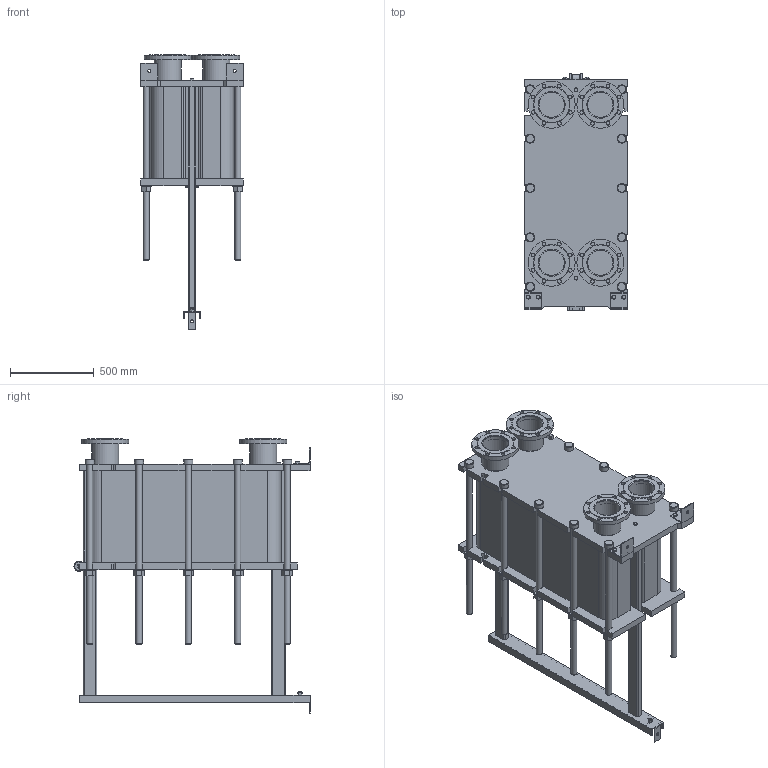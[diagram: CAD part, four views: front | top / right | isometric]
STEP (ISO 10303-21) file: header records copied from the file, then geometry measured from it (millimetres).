
FILE_DESCRIPTION(/* description */ (''),/* implementation_level */ '2;1');
FILE_NAME(/* name */ 'C:\Users\zhuro\Desktop\ENCO\TO\ЭН-041\ЭН-0,5-041-159-1.stp',/* time_stamp */ '2022-06-06T11:03:14+03:00',/* author */ ('zhuro'),/* organization */ (''),/* preprocessor_version */ 'ST-DEVELOPER v18.1',/* originating_system */ 'Autodesk Inventor 2022',/* authorisation */ '');
FILE_SCHEMA (('AUTOMOTIVE_DESIGN { 1 0 10303 214 3 1 1 }'));
Length unit declared in the file: millimetre
Products named in the file (1): ЭН-0,5-041-159-1
Bounding box: 610 x 1406.5 x 1632.5 mm (x, y, z)
Volume: 393144202.1 mm3; surface area: 10325412.7 mm2
Topology: 52 solids, 52 shells, 711 faces, 1696 edges, 1094 vertices
Faces by surface type: plane 487, cylinder 177, cone 41, torus 6
Full cylindrical faces by diameter (mm): 8 x4, 10 x2, 16 x8, 18 x3, 22 x32, 36 x24, 50 x1, 54 x10, 60 x12, 151 x4, 161 x8, 280 x4
Entity records: 22667 total; most frequent: CARTESIAN_POINT 5230, DIRECTION 3644, ORIENTED_EDGE 3392, EDGE_CURVE 1696, AXIS2_PLACEMENT_3D 1272, LINE 1100, VECTOR 1100, VERTEX_POINT 1094
